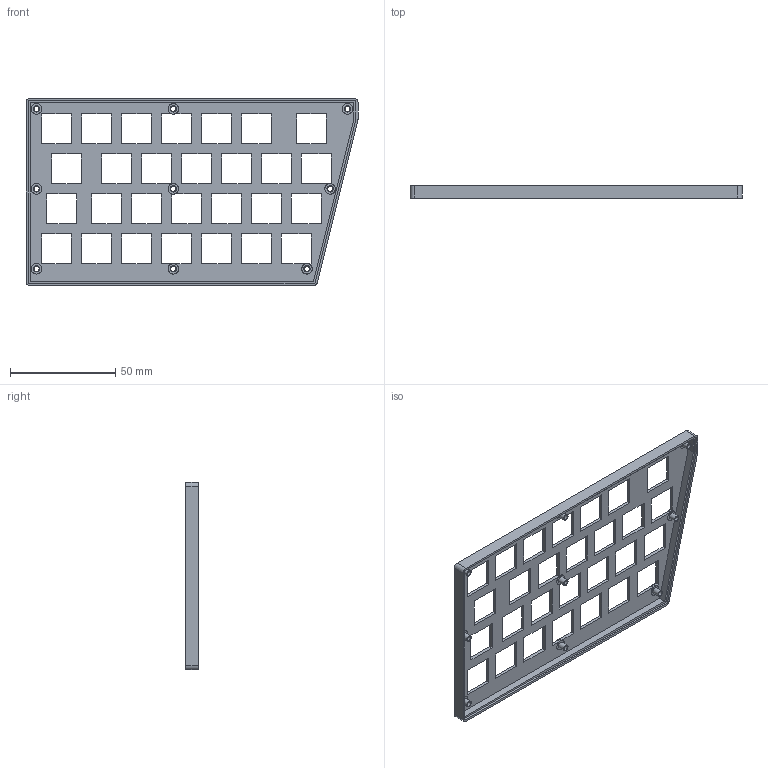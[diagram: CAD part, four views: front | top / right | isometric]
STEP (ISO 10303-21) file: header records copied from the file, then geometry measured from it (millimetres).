
FILE_DESCRIPTION(/* description */ (''),/* implementation_level */ '2;1');
FILE_NAME(/* name */ 'cradoll_keyboard_left_case_top v16.step',/* time_stamp */ '2025-06-19T10:20:20+09:00',/* author */ (''),/* organization */ (''),/* preprocessor_version */ 'ST-DEVELOPER v20.1',/* originating_system */ 'Autodesk Translation Framework v14.10.0.0',/* authorisation */ '');
FILE_SCHEMA (('AUTOMOTIVE_DESIGN { 1 0 10303 214 3 1 1 }'));
Length unit declared in the file: millimetre
Products named in the file (1): cradoll_keyboard_left_case_top
Bounding box: 157.75 x 6 x 89 mm (x, y, z)
Volume: 15132.5 mm3; surface area: 24847.5 mm2
Topology: 11 solids, 11 shells, 224 faces, 576 edges, 384 vertices
Faces by surface type: plane 169, cylinder 46, cone 9
Full cylindrical faces by diameter (mm): 2.4 x9, 3 x9, 5 x13
Entity records: 6961 total; most frequent: CARTESIAN_POINT 1185, ORIENTED_EDGE 1152, DIRECTION 1136, EDGE_CURVE 576, LINE 466, VECTOR 466, VERTEX_POINT 384, AXIS2_PLACEMENT_3D 335
